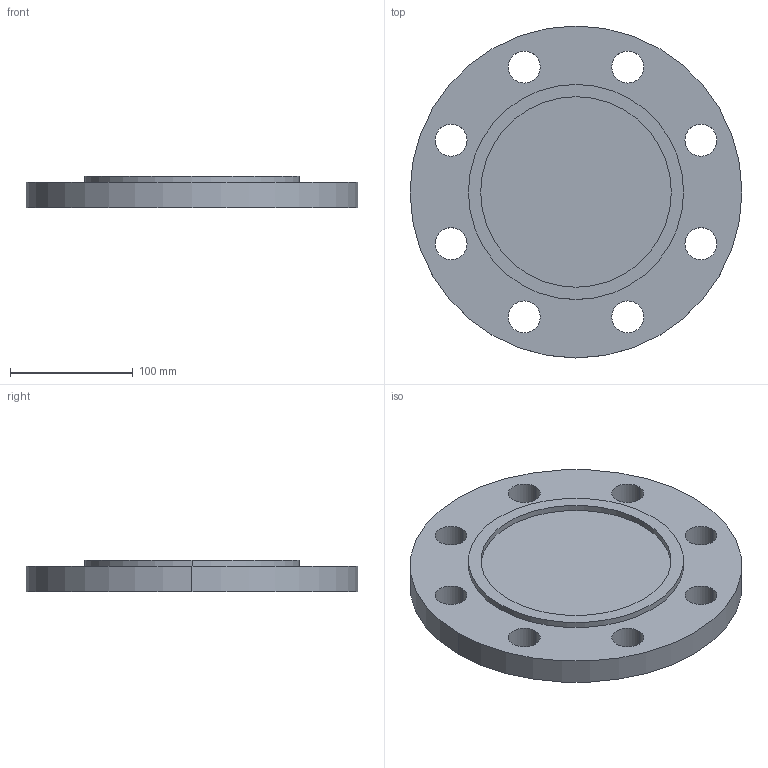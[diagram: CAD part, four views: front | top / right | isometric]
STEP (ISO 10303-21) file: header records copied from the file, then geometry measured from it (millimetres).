
FILE_DESCRIPTION (( 'STEP AP214' ), '1' );
FILE_NAME ('PN40 DN125 Type 05 - Type C Face.STEP', '2019-01-02T19:29:54', ( '' ), ( '' ), 'SwSTEP 2.0', 'SolidWorks 2019', '' );
FILE_SCHEMA (( 'AUTOMOTIVE_DESIGN' ));
Length unit declared in the file: millimetre
Products named in the file (1): PN40 DN125 Type 05 - Type C Face
Bounding box: 270 x 270 x 26 mm (x, y, z)
Volume: 1139088.1 mm3; surface area: 142735.1 mm2
Topology: 1 solids, 1 shells, 26 faces, 66 edges, 44 vertices
Faces by surface type: cylinder 22, plane 4
Entity records: 880 total; most frequent: DIRECTION 164, CARTESIAN_POINT 137, ORIENTED_EDGE 132, AXIS2_PLACEMENT_3D 71, EDGE_CURVE 66, CIRCLE 44, EDGE_LOOP 44, VERTEX_POINT 44
